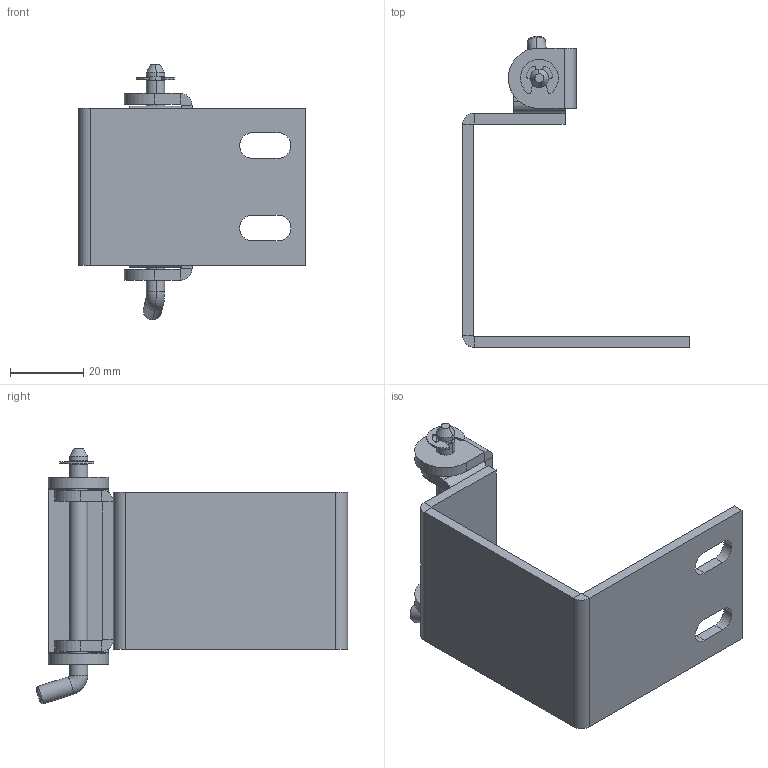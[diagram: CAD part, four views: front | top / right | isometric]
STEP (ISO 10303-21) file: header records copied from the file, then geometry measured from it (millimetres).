
FILE_DESCRIPTION (( 'STEP AP214' ), '1' );
FILE_NAME ('3.ST9.001.00.STEP', '2010-02-26T18:41:39', ( 'Rak' ), ( 'ROZTOCZE' ), 'SwSTEP 2.0', 'SolidWorks 2004231', '' );
FILE_SCHEMA (( 'AUTOMOTIVE_DESIGN' ));
Length unit declared in the file: millimetre
Products named in the file (6): 3.ST9.001.01_Domyœlna; P³ytka osadcza Fi4_Domyœlna; 3.ST9.001.00; 3.ST9.001.04_Domyœlna; 3.ST9.001.02_Domyœlna; 3.ST9.001.03_Domyœlna
Assembly tree (5 placements, depth 2):
  3.ST9.001.00
    3.ST9.001.03_Domyœlna
    3.ST9.001.01_Domyœlna
    3.ST9.001.02_Domyœlna
    3.ST9.001.04_Domyœlna
    P³ytka osadcza Fi4_Domyœlna
Bounding box: 62 x 85.03 x 69.85 mm (x, y, z)
Volume: 26059.1 mm3; surface area: 20349.3 mm2
Topology: 5 solids, 5 shells, 131 faces, 301 edges, 182 vertices
Faces by surface type: plane 66, cylinder 59, cone 4, torus 2
Entity records: 3890 total; most frequent: DIRECTION 703, CARTESIAN_POINT 622, ORIENTED_EDGE 602, EDGE_CURVE 301, AXIS2_PLACEMENT_3D 263, VERTEX_POINT 182, VECTOR 177, LINE 177
